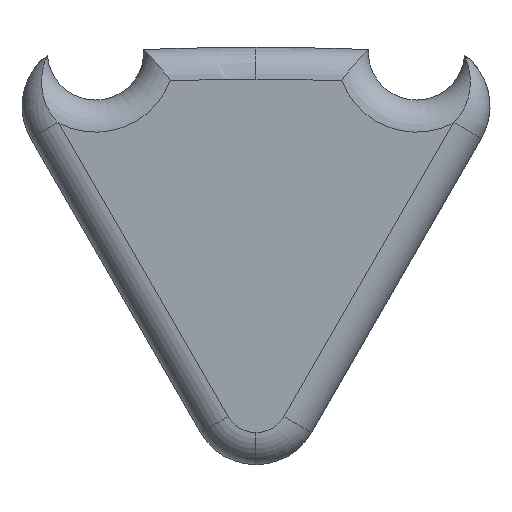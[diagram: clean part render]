
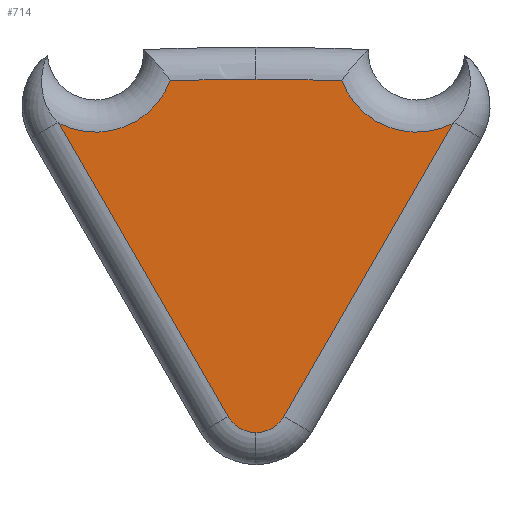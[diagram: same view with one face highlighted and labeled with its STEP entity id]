
A CAD part, front view. The second image highlights one B-rep face of the part: STEP entity #714.
In plain terms, the highlighted planar face has unit normal (0, -1, 0).
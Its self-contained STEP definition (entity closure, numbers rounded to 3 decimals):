
#25 = AXIS2_PLACEMENT_3D ( 'NONE', #305, #57, #314 ) ;
#28 = DIRECTION ( 'NONE',  ( 0.5, 0., 0.866 ) ) ;
#42 = ORIENTED_EDGE ( 'NONE', *, *, #633, .T. ) ;
#51 = ORIENTED_EDGE ( 'NONE', *, *, #768, .T. ) ;
#56 = DIRECTION ( 'NONE',  ( 0., 1., 0. ) ) ;
#57 = DIRECTION ( 'NONE',  ( 0., -1., 0. ) ) ;
#101 = CARTESIAN_POINT ( 'NONE',  ( 6.138, 0., -2.369 ) ) ;
#105 = VERTEX_POINT ( 'NONE', #904 ) ;
#107 = CARTESIAN_POINT ( 'NONE',  ( 5., 0., -0.143 ) ) ;
#128 = CIRCLE ( 'NONE', #25, 1. ) ;
#146 = EDGE_CURVE ( 'NONE', #460, #348, #425, .T. ) ;
#188 = CARTESIAN_POINT ( 'NONE',  ( 0., 0., -87.5 ) ) ;
#192 = DIRECTION ( 'NONE',  ( 0., 0., 1. ) ) ;
#197 = DIRECTION ( 'NONE',  ( 0., 1., 0. ) ) ;
#215 = AXIS2_PLACEMENT_3D ( 'NONE', #575, #999, #829 ) ;
#245 = AXIS2_PLACEMENT_3D ( 'NONE', #188, #197, #849 ) ;
#246 = CARTESIAN_POINT ( 'NONE',  ( 0.866, 0., -11.5 ) ) ;
#258 = CIRCLE ( 'NONE', #645, 86.5 ) ;
#268 = CARTESIAN_POINT ( 'NONE',  ( -32.259, 0., -68.875 ) ) ;
#305 = CARTESIAN_POINT ( 'NONE',  ( 0., 0., -11. ) ) ;
#310 = LINE ( 'NONE', #900, #516 ) ;
#314 = DIRECTION ( 'NONE',  ( 0., 0., 1. ) ) ;
#348 = VERTEX_POINT ( 'NONE', #644 ) ;
#350 = AXIS2_PLACEMENT_3D ( 'NONE', #107, #694, #192 ) ;
#377 = EDGE_CURVE ( 'NONE', #348, #486, #128, .T. ) ;
#398 = DIRECTION ( 'NONE',  ( 0., 0., 1. ) ) ;
#405 = DIRECTION ( 'NONE',  ( 0., 0., 1. ) ) ;
#423 = CIRCLE ( 'NONE', #899, 2.5 ) ;
#424 = CARTESIAN_POINT ( 'NONE',  ( -0.866, 0., -11.5 ) ) ;
#425 = CIRCLE ( 'NONE', #215, 1. ) ;
#447 = EDGE_CURVE ( 'NONE', #887, #460, #310, .T. ) ;
#449 = ORIENTED_EDGE ( 'NONE', *, *, #505, .T. ) ;
#459 = ORIENTED_EDGE ( 'NONE', *, *, #146, .T. ) ;
#460 = VERTEX_POINT ( 'NONE', #424 ) ;
#476 = ORIENTED_EDGE ( 'NONE', *, *, #377, .T. ) ;
#477 = CARTESIAN_POINT ( 'NONE',  ( 0., 0., -87.5 ) ) ;
#482 = FACE_OUTER_BOUND ( 'NONE', #706, .T. ) ;
#486 = VERTEX_POINT ( 'NONE', #246 ) ;
#505 = EDGE_CURVE ( 'NONE', #931, #105, #258, .T. ) ;
#516 = VECTOR ( 'NONE', #742, 1000. ) ;
#521 = DIRECTION ( 'NONE',  ( 0., 0., 1. ) ) ;
#551 = VERTEX_POINT ( 'NONE', #671 ) ;
#575 = CARTESIAN_POINT ( 'NONE',  ( 0., 0., -11. ) ) ;
#595 = CARTESIAN_POINT ( 'NONE',  ( 0., 0., -87.5 ) ) ;
#611 = VECTOR ( 'NONE', #28, 1000. ) ;
#624 = VERTEX_POINT ( 'NONE', #101 ) ;
#633 = EDGE_CURVE ( 'NONE', #486, #624, #912, .T. ) ;
#636 = CARTESIAN_POINT ( 'NONE',  ( 0., 0., -1. ) ) ;
#644 = CARTESIAN_POINT ( 'NONE',  ( 0., 0., -12. ) ) ;
#645 = AXIS2_PLACEMENT_3D ( 'NONE', #595, #1016, #521 ) ;
#671 = CARTESIAN_POINT ( 'NONE',  ( 2.667, 0., -1.041 ) ) ;
#694 = DIRECTION ( 'NONE',  ( 0., 1., 0. ) ) ;
#706 = EDGE_LOOP ( 'NONE', ( #838, #449, #720, #760, #459, #476, #42, #51 ) ) ;
#714 = ADVANCED_FACE ( 'NONE', ( #482 ), #950, .F. ) ;
#715 = CIRCLE ( 'NONE', #350, 2.5 ) ;
#720 = ORIENTED_EDGE ( 'NONE', *, *, #932, .T. ) ;
#742 = DIRECTION ( 'NONE',  ( 0.5, 0., -0.866 ) ) ;
#760 = ORIENTED_EDGE ( 'NONE', *, *, #447, .T. ) ;
#768 = EDGE_CURVE ( 'NONE', #624, #551, #715, .T. ) ;
#829 = DIRECTION ( 'NONE',  ( 0., 0., 1. ) ) ;
#838 = ORIENTED_EDGE ( 'NONE', *, *, #908, .T. ) ;
#849 = DIRECTION ( 'NONE',  ( 0., 0., 1. ) ) ;
#875 = CARTESIAN_POINT ( 'NONE',  ( -6.138, 0., -2.369 ) ) ;
#887 = VERTEX_POINT ( 'NONE', #875 ) ;
#899 = AXIS2_PLACEMENT_3D ( 'NONE', #1067, #56, #405 ) ;
#900 = CARTESIAN_POINT ( 'NONE',  ( 32.259, 0., -68.875 ) ) ;
#903 = DIRECTION ( 'NONE',  ( 0., -1., 0. ) ) ;
#904 = CARTESIAN_POINT ( 'NONE',  ( -2.667, 0., -1.041 ) ) ;
#908 = EDGE_CURVE ( 'NONE', #551, #931, #1026, .T. ) ;
#912 = LINE ( 'NONE', #268, #611 ) ;
#925 = AXIS2_PLACEMENT_3D ( 'NONE', #477, #903, #398 ) ;
#931 = VERTEX_POINT ( 'NONE', #636 ) ;
#932 = EDGE_CURVE ( 'NONE', #105, #887, #423, .T. ) ;
#950 = PLANE ( 'NONE',  #245 ) ;
#999 = DIRECTION ( 'NONE',  ( 0., -1., 0. ) ) ;
#1016 = DIRECTION ( 'NONE',  ( 0., -1., 0. ) ) ;
#1026 = CIRCLE ( 'NONE', #925, 86.5 ) ;
#1067 = CARTESIAN_POINT ( 'NONE',  ( -5., 0., -0.143 ) ) ;
